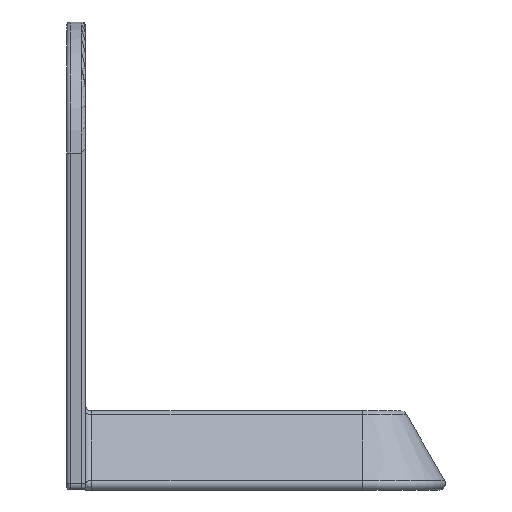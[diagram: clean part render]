
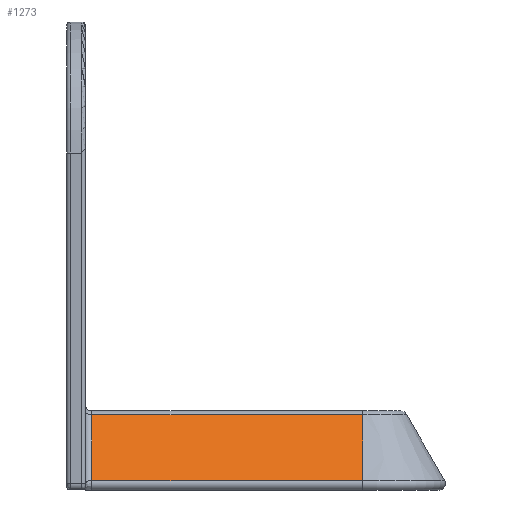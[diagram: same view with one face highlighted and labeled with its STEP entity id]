
A CAD part, left-side view. The second image highlights one B-rep face of the part: STEP entity #1273.
In plain terms, the highlighted planar face has unit normal (-0.867, 0, 0.499).
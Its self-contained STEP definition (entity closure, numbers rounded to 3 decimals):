
#44=PLANE('',#1431);
#116=LINE('',#2702,#198);
#117=LINE('',#2705,#199);
#118=LINE('',#2709,#200);
#119=LINE('',#2710,#201);
#198=VECTOR('',#1780,1.);
#199=VECTOR('',#1783,10.);
#200=VECTOR('',#1788,10.);
#201=VECTOR('',#1789,10.);
#324=FACE_OUTER_BOUND('',#405,.T.);
#405=EDGE_LOOP('',(#1144,#1145,#1146,#1147));
#595=VERTEX_POINT('',#2488);
#624=VERTEX_POINT('',#2698);
#625=VERTEX_POINT('',#2704);
#626=VERTEX_POINT('',#2708);
#799=EDGE_CURVE('',#624,#595,#116,.T.);
#800=EDGE_CURVE('',#595,#625,#117,.T.);
#802=EDGE_CURVE('',#626,#624,#118,.T.);
#803=EDGE_CURVE('',#625,#626,#119,.T.);
#1144=ORIENTED_EDGE('',*,*,#799,.F.);
#1145=ORIENTED_EDGE('',*,*,#802,.F.);
#1146=ORIENTED_EDGE('',*,*,#803,.F.);
#1147=ORIENTED_EDGE('',*,*,#800,.F.);
#1273=ADVANCED_FACE('',(#324),#44,.T.);
#1431=AXIS2_PLACEMENT_3D('',#2707,#1786,#1787);
#1780=DIRECTION('',(0.,1.,0.));
#1783=DIRECTION('',(0.499,0.,0.867));
#1786=DIRECTION('center_axis',(-0.867,0.,0.499));
#1787=DIRECTION('ref_axis',(-0.499,0.,-0.867));
#1788=DIRECTION('',(-0.499,0.,-0.867));
#1789=DIRECTION('',(0.,-1.,0.));
#2488=CARTESIAN_POINT('',(-7.021,-4.,1.492));
#2698=CARTESIAN_POINT('',(-7.021,-47.,1.492));
#2702=CARTESIAN_POINT('',(-7.021,-3.,1.492));
#2704=CARTESIAN_POINT('',(-1.,-4.,11.96));
#2705=CARTESIAN_POINT('',(1.901,-4.,17.004));
#2707=CARTESIAN_POINT('Origin',(-1.,-3.,11.96));
#2708=CARTESIAN_POINT('',(-1.,-47.,11.96));
#2709=CARTESIAN_POINT('',(-2.342,-47.,9.627));
#2710=CARTESIAN_POINT('',(-1.,-3.,11.96));
